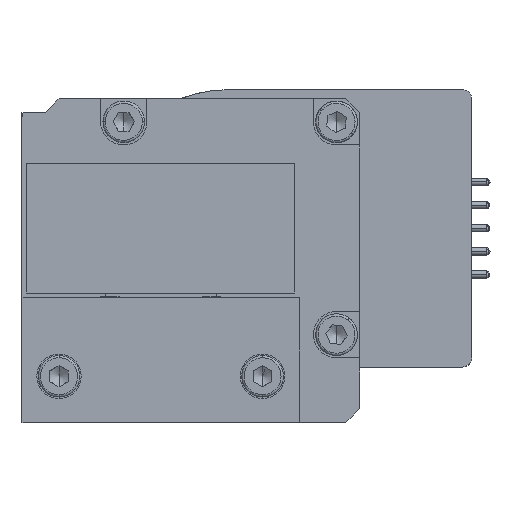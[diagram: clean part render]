
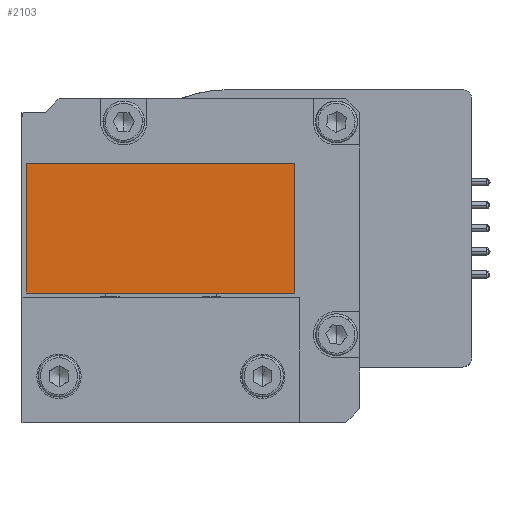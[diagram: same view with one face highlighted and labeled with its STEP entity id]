
A CAD part, left-side view. The second image highlights one B-rep face of the part: STEP entity #2103.
In plain terms, the highlighted planar face has unit normal (-1, 0, 0).
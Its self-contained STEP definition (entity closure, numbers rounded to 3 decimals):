
#1420 = EDGE_CURVE ( 'NONE', #1450, #1421, #12493, .T. ) ;
#1421 = VERTEX_POINT ( 'NONE', #12489 ) ;
#1429 = VERTEX_POINT ( 'NONE', #12538 ) ;
#1449 = EDGE_CURVE ( 'NONE', #1450, #1451, #12544, .T. ) ;
#1450 = VERTEX_POINT ( 'NONE', #12540 ) ;
#1451 = VERTEX_POINT ( 'NONE', #12539 ) ;
#1472 = EDGE_CURVE ( 'NONE', #1421, #1429, #12669, .T. ) ;
#1548 = EDGE_CURVE ( 'NONE', #1429, #1451, #12908, .T. ) ;
#2103 = ADVANCED_FACE ( 'NONE', ( #14227 ), #14226, .T. ) ;
#2104 = EDGE_LOOP ( 'NONE', ( #2105, #2106, #2161, #2162 ) ) ;
#2105 = ORIENTED_EDGE ( 'NONE', *, *, #1449, .T. ) ;
#2106 = ORIENTED_EDGE ( 'NONE', *, *, #1548, .F. ) ;
#2161 = ORIENTED_EDGE ( 'NONE', *, *, #1472, .F. ) ;
#2162 = ORIENTED_EDGE ( 'NONE', *, *, #1420, .F. ) ;
#12489 = CARTESIAN_POINT ( 'NONE',  ( -9.25, 0.5, 14. ) ) ;
#12490 = DIRECTION ( 'NONE',  ( 0., 0., -1. ) ) ;
#12491 = VECTOR ( 'NONE', #12490, 1000. ) ;
#12492 = CARTESIAN_POINT ( 'NONE',  ( -9.25, 0.5, 28. ) ) ;
#12493 = LINE ( 'NONE', #12492, #12491 ) ;
#12538 = CARTESIAN_POINT ( 'NONE',  ( -9.25, 29.5, 14. ) ) ;
#12539 = CARTESIAN_POINT ( 'NONE',  ( -9.25, 29.5, 28. ) ) ;
#12540 = CARTESIAN_POINT ( 'NONE',  ( -9.25, 0.5, 28. ) ) ;
#12541 = DIRECTION ( 'NONE',  ( 0., 1., 0. ) ) ;
#12542 = VECTOR ( 'NONE', #12541, 1000. ) ;
#12543 = CARTESIAN_POINT ( 'NONE',  ( -9.25, 29.5, 28. ) ) ;
#12544 = LINE ( 'NONE', #12543, #12542 ) ;
#12666 = DIRECTION ( 'NONE',  ( 0., 1., 0. ) ) ;
#12667 = VECTOR ( 'NONE', #12666, 1000. ) ;
#12668 = CARTESIAN_POINT ( 'NONE',  ( -9.25, 15., 14. ) ) ;
#12669 = LINE ( 'NONE', #12668, #12667 ) ;
#12905 = DIRECTION ( 'NONE',  ( 0., 0., 1. ) ) ;
#12906 = VECTOR ( 'NONE', #12905, 1000. ) ;
#12907 = CARTESIAN_POINT ( 'NONE',  ( -9.25, 29.5, 28. ) ) ;
#12908 = LINE ( 'NONE', #12907, #12906 ) ;
#14222 = DIRECTION ( 'NONE',  ( 0., -1., 0. ) ) ;
#14223 = DIRECTION ( 'NONE',  ( -1., 0., 0. ) ) ;
#14224 = CARTESIAN_POINT ( 'NONE',  ( -9.25, 29.5, 28. ) ) ;
#14225 = AXIS2_PLACEMENT_3D ( 'NONE', #14224, #14223, #14222 ) ;
#14226 = PLANE ( 'NONE',  #14225 ) ;
#14227 = FACE_OUTER_BOUND ( 'NONE', #2104, .T. ) ;
